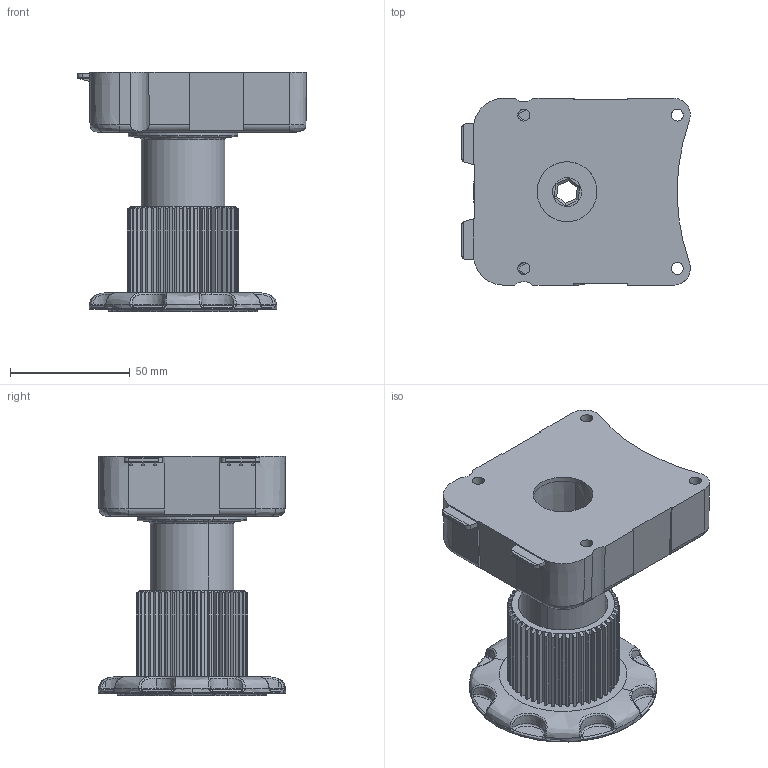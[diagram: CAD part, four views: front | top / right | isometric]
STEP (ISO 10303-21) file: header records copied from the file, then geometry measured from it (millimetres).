
FILE_DESCRIPTION (( 'STEP AP214' ), '1' );
FILE_NAME ('540910.STEP', '2020-02-24T13:47:27', ( '' ), ( '' ), 'SwSTEP 2.0', 'SolidWorks 2019', '' );
FILE_SCHEMA (( 'AUTOMOTIVE_DESIGN' ));
Length unit declared in the file: millimetre
Products named in the file (1): 540910
Bounding box: 95.5 x 78.15 x 100 mm (x, y, z)
Volume: 209443.8 mm3; surface area: 71416.7 mm2
Topology: 3 solids, 3 shells, 630 faces, 1831 edges, 1204 vertices
Faces by surface type: plane 268, cylinder 160, bspline 118, cone 45, torus 39
Entity records: 38934 total; most frequent: CARTESIAN_POINT 16575, ORIENTED_EDGE 3646, DIRECTION 2749, EDGE_CURVE 1823, VERTEX_POINT 1204, AXIS2_PLACEMENT_3D 1055, EDGE_LOOP 649, LINE 639
